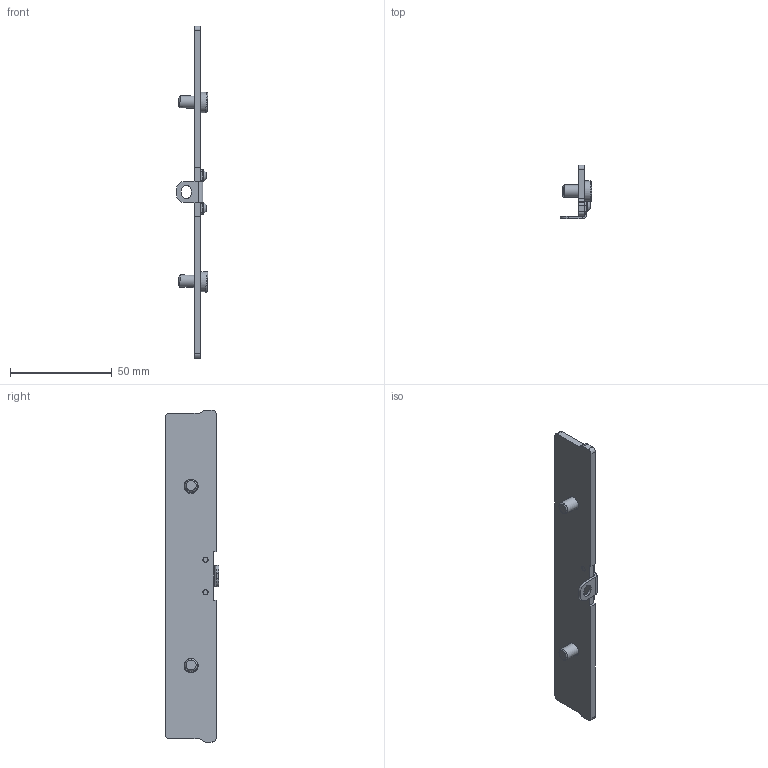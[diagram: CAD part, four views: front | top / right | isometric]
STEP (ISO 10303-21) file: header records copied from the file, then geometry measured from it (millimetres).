
FILE_DESCRIPTION (( 'STEP AP214' ), '1' );
FILE_NAME ('6921205025042.STEP', '2018-08-03T06:44:24', ( '' ), ( '' ), 'SwSTEP 2.0', 'SolidWorks 2016', '' );
FILE_SCHEMA (( 'AUTOMOTIVE_DESIGN' ));
Length unit declared in the file: millimetre
Products named in the file (5): 6921205025000; 8022503004820_ISO 7380 - M3 x 4 --- 6N; 6921185018000; 8006200610800_DIN 912 - M6 x 10 --- 4.5N; 6921205025042
Assembly tree (6 placements, depth 2):
  6921205025042
    6921205025000
    6921185018000
    8022503004820_ISO 7380 - M3 x 4 --- 6N  x2
    8006200610800_DIN 912 - M6 x 10 --- 4.5N  x2
Bounding box: 15.4 x 26.35 x 163 mm (x, y, z)
Volume: 13091.8 mm3; surface area: 10996.2 mm2
Topology: 6 solids, 6 shells, 178 faces, 426 edges, 270 vertices
Faces by surface type: plane 108, cylinder 38, bspline 14, cone 10, torus 6, sphere 2
Full cylindrical faces by diameter (mm): 2.5 x2, 3 x4, 3.2 x2, 5.7 x2, 6 x2, 7 x2, 10 x2, 11 x2
Entity records: 4901 total; most frequent: CARTESIAN_POINT 1607, ORIENTED_EDGE 612, DIRECTION 612, EDGE_CURVE 306, AXIS2_PLACEMENT_3D 209, VERTEX_POINT 208, VECTOR 194, LINE 194
